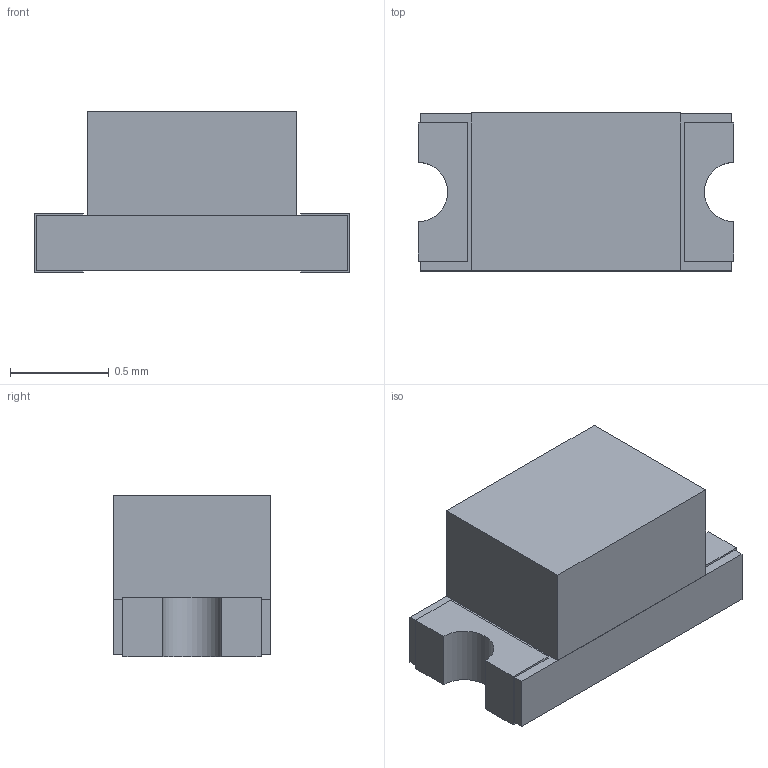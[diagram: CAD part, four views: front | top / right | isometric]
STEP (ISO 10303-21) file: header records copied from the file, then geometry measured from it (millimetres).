
FILE_DESCRIPTION(('Open CASCADE Model'),'2;1');
FILE_NAME('Open CASCADE Shape Model','2026-10-25T11:09:13',('Author'),( 'Open CASCADE'),'Open CASCADE STEP processor 8.0','Open CASCADE 8.0' ,'Unknown');
FILE_SCHEMA(('AUTOMOTIVE_DESIGN { 1 0 10303 214 1 1 1 1 }'));
Length unit declared in the file: millimetre
Products named in the file (4): Open CASCADE STEP translator 8.0 30; Open CASCADE STEP translator 8.0 30.1; Open CASCADE STEP translator 8.0 30.2; Open CASCADE STEP translator 8.0 30.3
Assembly tree (3 placements, depth 2):
  Open CASCADE STEP translator 8.0 30
    Open CASCADE STEP translator 8.0 30.1
    Open CASCADE STEP translator 8.0 30.2
    Open CASCADE STEP translator 8.0 30.3
Bounding box: 1.6 x 0.8 x 0.82 mm (x, y, z)
Volume: 0.8 mm3; surface area: 7.9 mm2
Topology: 3 solids, 3 shells, 41 faces, 104 edges, 65 vertices
Faces by surface type: plane 31, cylinder 6, sphere 4
Entity records: 2722 total; most frequent: CARTESIAN_POINT 614, DIRECTION 393, LINE 269, VECTOR 269, ORIENTED_EDGE 200, PCURVE 200, DEFINITIONAL_REPRESENTATION 200, EDGE_CURVE 100
